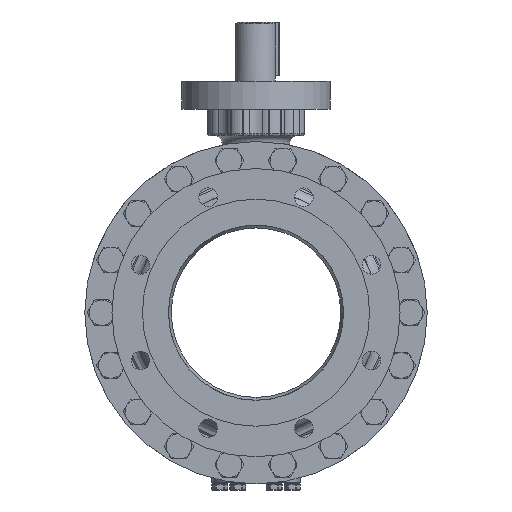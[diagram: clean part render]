
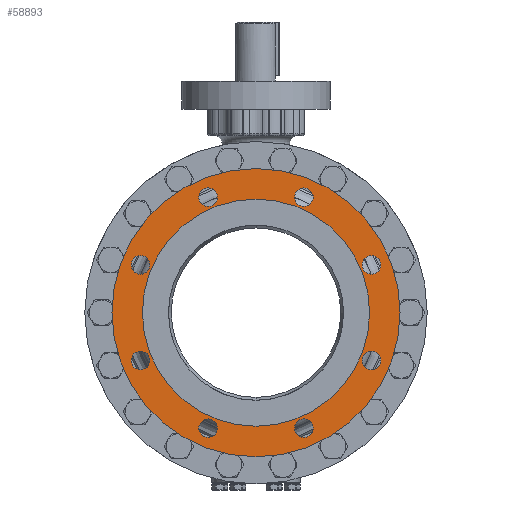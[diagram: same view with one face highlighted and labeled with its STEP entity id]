
A CAD part, left-side view. The second image highlights one B-rep face of the part: STEP entity #58893.
In plain terms, the highlighted planar face has unit normal (-1, 0, 0).
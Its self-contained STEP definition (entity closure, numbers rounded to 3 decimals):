
#3995=CARTESIAN_POINT('',(-225.5,0.,0.));
#3996=DIRECTION('',(-1.,0.,0.));
#3997=DIRECTION('',(0.,0.,1.));
#3998=AXIS2_PLACEMENT_3D('',#3995,#3996,#3997);
#4000=CARTESIAN_POINT('',(-225.5,0.,0.));
#4001=DIRECTION('',(-1.,0.,0.));
#4002=DIRECTION('',(0.,0.,-1.));
#4003=AXIS2_PLACEMENT_3D('',#4000,#4001,#4002);
#4005=CARTESIAN_POINT('',(-225.5,-56.446,136.272));
#4006=DIRECTION('',(-1.,0.,0.));
#4007=DIRECTION('',(0.,-1.,0.));
#4008=AXIS2_PLACEMENT_3D('',#4005,#4006,#4007);
#4010=CARTESIAN_POINT('',(-225.5,-56.446,136.272));
#4011=DIRECTION('',(-1.,0.,0.));
#4012=DIRECTION('',(0.,1.,0.));
#4013=AXIS2_PLACEMENT_3D('',#4010,#4011,#4012);
#4015=CARTESIAN_POINT('',(-225.5,56.446,136.272));
#4016=DIRECTION('',(-1.,0.,0.));
#4017=DIRECTION('',(0.,-0.707,0.707));
#4018=AXIS2_PLACEMENT_3D('',#4015,#4016,#4017);
#4020=CARTESIAN_POINT('',(-225.5,56.446,136.272));
#4021=DIRECTION('',(-1.,0.,0.));
#4022=DIRECTION('',(0.,0.707,-0.707));
#4023=AXIS2_PLACEMENT_3D('',#4020,#4021,#4022);
#4025=CARTESIAN_POINT('',(-225.5,136.272,56.446));
#4026=DIRECTION('',(-1.,0.,0.));
#4027=DIRECTION('',(0.,0.,1.));
#4028=AXIS2_PLACEMENT_3D('',#4025,#4026,#4027);
#4030=CARTESIAN_POINT('',(-225.5,136.272,56.446));
#4031=DIRECTION('',(-1.,0.,0.));
#4032=DIRECTION('',(0.,0.,-1.));
#4033=AXIS2_PLACEMENT_3D('',#4030,#4031,#4032);
#4035=CARTESIAN_POINT('',(-225.5,136.272,-56.446));
#4036=DIRECTION('',(-1.,0.,0.));
#4037=DIRECTION('',(0.,0.707,0.707));
#4038=AXIS2_PLACEMENT_3D('',#4035,#4036,#4037);
#4040=CARTESIAN_POINT('',(-225.5,136.272,-56.446));
#4041=DIRECTION('',(-1.,0.,0.));
#4042=DIRECTION('',(0.,-0.707,-0.707));
#4043=AXIS2_PLACEMENT_3D('',#4040,#4041,#4042);
#4045=CARTESIAN_POINT('',(-225.5,56.446,-136.272));
#4046=DIRECTION('',(-1.,0.,0.));
#4047=DIRECTION('',(0.,1.,0.));
#4048=AXIS2_PLACEMENT_3D('',#4045,#4046,#4047);
#4050=CARTESIAN_POINT('',(-225.5,56.446,-136.272));
#4051=DIRECTION('',(-1.,0.,0.));
#4052=DIRECTION('',(0.,-1.,0.));
#4053=AXIS2_PLACEMENT_3D('',#4050,#4051,#4052);
#4055=CARTESIAN_POINT('',(-225.5,-56.446,-136.272));
#4056=DIRECTION('',(-1.,0.,0.));
#4057=DIRECTION('',(0.,0.707,-0.707));
#4058=AXIS2_PLACEMENT_3D('',#4055,#4056,#4057);
#4060=CARTESIAN_POINT('',(-225.5,-56.446,-136.272));
#4061=DIRECTION('',(-1.,0.,0.));
#4062=DIRECTION('',(0.,-0.707,0.707));
#4063=AXIS2_PLACEMENT_3D('',#4060,#4061,#4062);
#4065=CARTESIAN_POINT('',(-225.5,-136.272,-56.446));
#4066=DIRECTION('',(-1.,0.,0.));
#4067=DIRECTION('',(0.,0.,-1.));
#4068=AXIS2_PLACEMENT_3D('',#4065,#4066,#4067);
#4070=CARTESIAN_POINT('',(-225.5,-136.272,-56.446));
#4071=DIRECTION('',(-1.,0.,0.));
#4072=DIRECTION('',(0.,0.,1.));
#4073=AXIS2_PLACEMENT_3D('',#4070,#4071,#4072);
#4075=CARTESIAN_POINT('',(-225.5,-136.272,56.446));
#4076=DIRECTION('',(-1.,0.,0.));
#4077=DIRECTION('',(0.,-0.707,-0.707));
#4078=AXIS2_PLACEMENT_3D('',#4075,#4076,#4077);
#4080=CARTESIAN_POINT('',(-225.5,-136.272,56.446));
#4081=DIRECTION('',(-1.,0.,0.));
#4082=DIRECTION('',(0.,0.707,0.707));
#4083=AXIS2_PLACEMENT_3D('',#4080,#4081,#4082);
#4089=CARTESIAN_POINT('',(-225.5,0.,0.));
#4090=DIRECTION('',(-1.,0.,0.));
#4091=DIRECTION('',(0.,0.,1.));
#4092=AXIS2_PLACEMENT_3D('',#4089,#4090,#4091);
#4118=CARTESIAN_POINT('',(-225.5,0.,0.));
#4119=DIRECTION('',(1.,0.,0.));
#4120=DIRECTION('',(0.,0.,1.));
#4121=AXIS2_PLACEMENT_3D('',#4118,#4119,#4120);
#48946=CARTESIAN_POINT('',(-225.5,0.,134.));
#48947=CARTESIAN_POINT('',(-225.5,0.,-134.));
#48948=VERTEX_POINT('',#48946);
#48949=VERTEX_POINT('',#48947);
#48950=CARTESIAN_POINT('',(-225.5,0.,170.));
#48951=CARTESIAN_POINT('',(-225.5,0.,-170.));
#48952=VERTEX_POINT('',#48950);
#48953=VERTEX_POINT('',#48951);
#48966=CARTESIAN_POINT('',(-225.5,-67.446,136.272));
#48967=CARTESIAN_POINT('',(-225.5,-45.446,136.272));
#48968=VERTEX_POINT('',#48966);
#48969=VERTEX_POINT('',#48967);
#48974=CARTESIAN_POINT('',(-225.5,48.668,144.05));
#48975=CARTESIAN_POINT('',(-225.5,64.224,128.494));
#48976=VERTEX_POINT('',#48974);
#48977=VERTEX_POINT('',#48975);
#48982=CARTESIAN_POINT('',(-225.5,136.272,67.446));
#48983=CARTESIAN_POINT('',(-225.5,136.272,45.446));
#48984=VERTEX_POINT('',#48982);
#48985=VERTEX_POINT('',#48983);
#48990=CARTESIAN_POINT('',(-225.5,144.05,-48.668));
#48991=CARTESIAN_POINT('',(-225.5,128.494,-64.224));
#48992=VERTEX_POINT('',#48990);
#48993=VERTEX_POINT('',#48991);
#48998=CARTESIAN_POINT('',(-225.5,67.446,-136.272));
#48999=CARTESIAN_POINT('',(-225.5,45.446,-136.272));
#49000=VERTEX_POINT('',#48998);
#49001=VERTEX_POINT('',#48999);
#49006=CARTESIAN_POINT('',(-225.5,-48.668,-144.05));
#49007=CARTESIAN_POINT('',(-225.5,-64.224,-128.494));
#49008=VERTEX_POINT('',#49006);
#49009=VERTEX_POINT('',#49007);
#49014=CARTESIAN_POINT('',(-225.5,-136.272,-67.446));
#49015=CARTESIAN_POINT('',(-225.5,-136.272,-45.446));
#49016=VERTEX_POINT('',#49014);
#49017=VERTEX_POINT('',#49015);
#49022=CARTESIAN_POINT('',(-225.5,-144.05,48.668));
#49023=CARTESIAN_POINT('',(-225.5,-128.494,64.224));
#49024=VERTEX_POINT('',#49022);
#49025=VERTEX_POINT('',#49023);
#58829=CARTESIAN_POINT('',(-225.5,0.,0.));
#58830=DIRECTION('',(1.,0.,0.));
#58831=DIRECTION('',(0.,0.,1.));
#58832=AXIS2_PLACEMENT_3D('',#58829,#58830,#58831);
#58833=PLANE('',#58832);
#58835=ORIENTED_EDGE('',*,*,#58834,.F.);
#58836=ORIENTED_EDGE('',*,*,#58819,.F.);
#58837=EDGE_LOOP('',(#58835,#58836));
#58838=FACE_OUTER_BOUND('',#58837,.F.);
#58840=ORIENTED_EDGE('',*,*,#58839,.T.);
#58842=ORIENTED_EDGE('',*,*,#58841,.F.);
#58843=EDGE_LOOP('',(#58840,#58842));
#58844=FACE_BOUND('',#58843,.F.);
#58846=ORIENTED_EDGE('',*,*,#58845,.T.);
#58848=ORIENTED_EDGE('',*,*,#58847,.T.);
#58849=EDGE_LOOP('',(#58846,#58848));
#58850=FACE_BOUND('',#58849,.F.);
#58852=ORIENTED_EDGE('',*,*,#58851,.T.);
#58854=ORIENTED_EDGE('',*,*,#58853,.T.);
#58855=EDGE_LOOP('',(#58852,#58854));
#58856=FACE_BOUND('',#58855,.F.);
#58858=ORIENTED_EDGE('',*,*,#58857,.T.);
#58860=ORIENTED_EDGE('',*,*,#58859,.T.);
#58861=EDGE_LOOP('',(#58858,#58860));
#58862=FACE_BOUND('',#58861,.F.);
#58864=ORIENTED_EDGE('',*,*,#58863,.T.);
#58866=ORIENTED_EDGE('',*,*,#58865,.T.);
#58867=EDGE_LOOP('',(#58864,#58866));
#58868=FACE_BOUND('',#58867,.F.);
#58870=ORIENTED_EDGE('',*,*,#58869,.T.);
#58872=ORIENTED_EDGE('',*,*,#58871,.T.);
#58873=EDGE_LOOP('',(#58870,#58872));
#58874=FACE_BOUND('',#58873,.F.);
#58876=ORIENTED_EDGE('',*,*,#58875,.T.);
#58878=ORIENTED_EDGE('',*,*,#58877,.T.);
#58879=EDGE_LOOP('',(#58876,#58878));
#58880=FACE_BOUND('',#58879,.F.);
#58882=ORIENTED_EDGE('',*,*,#58881,.T.);
#58884=ORIENTED_EDGE('',*,*,#58883,.T.);
#58885=EDGE_LOOP('',(#58882,#58884));
#58886=FACE_BOUND('',#58885,.F.);
#58888=ORIENTED_EDGE('',*,*,#58887,.T.);
#58890=ORIENTED_EDGE('',*,*,#58889,.T.);
#58891=EDGE_LOOP('',(#58888,#58890));
#58892=FACE_BOUND('',#58891,.F.);
#58893=ADVANCED_FACE('',(#58838,#58844,#58850,#58856,#58862,#58868,#58874,
#58880,#58886,#58892),#58833,.F.);
#3999=CIRCLE('',#3998,170.);
#4004=CIRCLE('',#4003,170.);
#4009=CIRCLE('',#4008,11.);
#4014=CIRCLE('',#4013,11.);
#4019=CIRCLE('',#4018,11.);
#4024=CIRCLE('',#4023,11.);
#4029=CIRCLE('',#4028,11.);
#4034=CIRCLE('',#4033,11.);
#4039=CIRCLE('',#4038,11.);
#4044=CIRCLE('',#4043,11.);
#4049=CIRCLE('',#4048,11.);
#4054=CIRCLE('',#4053,11.);
#4059=CIRCLE('',#4058,11.);
#4064=CIRCLE('',#4063,11.);
#4069=CIRCLE('',#4068,11.);
#4074=CIRCLE('',#4073,11.);
#4079=CIRCLE('',#4078,11.);
#4084=CIRCLE('',#4083,11.);
#4093=CIRCLE('',#4092,134.);
#4122=CIRCLE('',#4121,134.);
#58819=EDGE_CURVE('',#48953,#48952,#4004,.T.);
#58834=EDGE_CURVE('',#48952,#48953,#3999,.T.);
#58839=EDGE_CURVE('',#48948,#48949,#4093,.T.);
#58841=EDGE_CURVE('',#48948,#48949,#4122,.T.);
#58845=EDGE_CURVE('',#48968,#48969,#4009,.T.);
#58847=EDGE_CURVE('',#48969,#48968,#4014,.T.);
#58851=EDGE_CURVE('',#48976,#48977,#4019,.T.);
#58853=EDGE_CURVE('',#48977,#48976,#4024,.T.);
#58857=EDGE_CURVE('',#48984,#48985,#4029,.T.);
#58859=EDGE_CURVE('',#48985,#48984,#4034,.T.);
#58863=EDGE_CURVE('',#48992,#48993,#4039,.T.);
#58865=EDGE_CURVE('',#48993,#48992,#4044,.T.);
#58869=EDGE_CURVE('',#49000,#49001,#4049,.T.);
#58871=EDGE_CURVE('',#49001,#49000,#4054,.T.);
#58875=EDGE_CURVE('',#49008,#49009,#4059,.T.);
#58877=EDGE_CURVE('',#49009,#49008,#4064,.T.);
#58881=EDGE_CURVE('',#49016,#49017,#4069,.T.);
#58883=EDGE_CURVE('',#49017,#49016,#4074,.T.);
#58887=EDGE_CURVE('',#49024,#49025,#4079,.T.);
#58889=EDGE_CURVE('',#49025,#49024,#4084,.T.);
